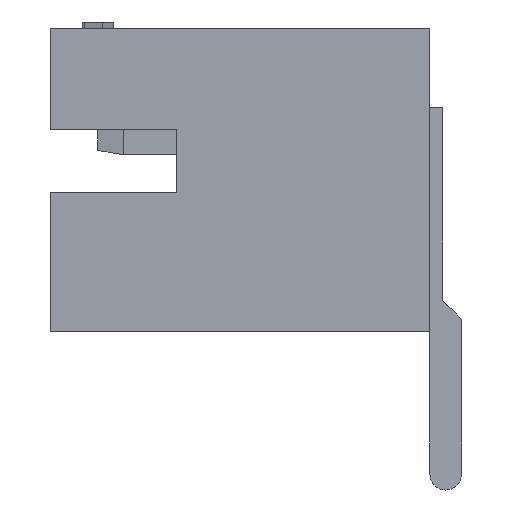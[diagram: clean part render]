
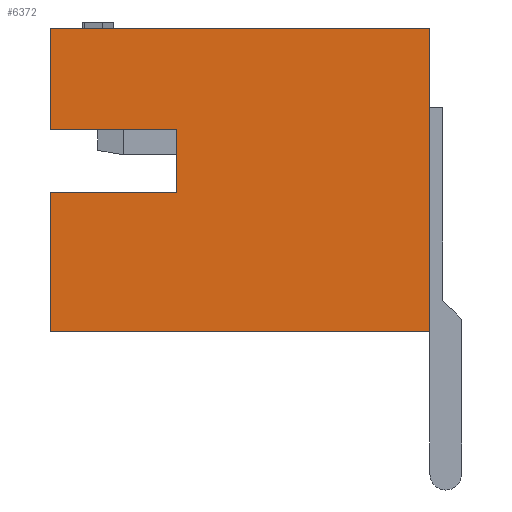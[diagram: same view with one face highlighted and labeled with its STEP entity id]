
A CAD part, left-side view. The second image highlights one B-rep face of the part: STEP entity #6372.
In plain terms, the highlighted planar face has unit normal (-1, 0, 0).
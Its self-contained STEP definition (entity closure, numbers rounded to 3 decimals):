
#1394=DIRECTION('',(0.,-1.,0.));
#1395=VECTOR('',#1394,2.);
#1396=CARTESIAN_POINT('',(0.,0.,-2.6));
#1397=LINE('',#1396,#1395);
#1398=DIRECTION('',(0.,0.,1.));
#1399=VECTOR('',#1398,1.);
#1400=CARTESIAN_POINT('',(0.,-2.,-2.6));
#1401=LINE('',#1400,#1399);
#1402=DIRECTION('',(0.,-1.,0.));
#1403=VECTOR('',#1402,2.);
#1404=CARTESIAN_POINT('',(0.,0.,-1.6));
#1405=LINE('',#1404,#1403);
#1406=DIRECTION('',(0.,0.,1.));
#1407=VECTOR('',#1406,1.6);
#1408=CARTESIAN_POINT('',(0.,0.,-1.6));
#1409=LINE('',#1408,#1407);
#1410=DIRECTION('',(0.,-1.,0.));
#1411=VECTOR('',#1410,6.);
#1412=CARTESIAN_POINT('',(0.,0.,0.));
#1413=LINE('',#1412,#1411);
#1414=DIRECTION('',(0.,0.,-1.));
#1415=VECTOR('',#1414,4.8);
#1416=CARTESIAN_POINT('',(0.,-6.,0.));
#1417=LINE('',#1416,#1415);
#1418=DIRECTION('',(0.,1.,0.));
#1419=VECTOR('',#1418,6.);
#1420=CARTESIAN_POINT('',(0.,-6.,-4.8));
#1421=LINE('',#1420,#1419);
#1422=DIRECTION('',(0.,0.,1.));
#1423=VECTOR('',#1422,2.2);
#1424=CARTESIAN_POINT('',(0.,0.,-4.8));
#1425=LINE('',#1424,#1423);
#3865=CARTESIAN_POINT('',(0.,0.,0.));
#3866=CARTESIAN_POINT('',(0.,-6.,0.));
#3867=VERTEX_POINT('',#3865);
#3868=VERTEX_POINT('',#3866);
#3869=CARTESIAN_POINT('',(0.,-6.,-4.8));
#3870=VERTEX_POINT('',#3869);
#3871=CARTESIAN_POINT('',(0.,0.,-4.8));
#3872=VERTEX_POINT('',#3871);
#4001=CARTESIAN_POINT('',(0.,0.,-2.6));
#4002=CARTESIAN_POINT('',(0.,-2.,-2.6));
#4003=VERTEX_POINT('',#4001);
#4004=VERTEX_POINT('',#4002);
#4005=CARTESIAN_POINT('',(0.,-2.,-1.6));
#4006=VERTEX_POINT('',#4005);
#4007=CARTESIAN_POINT('',(0.,0.,-1.6));
#4008=VERTEX_POINT('',#4007);
#6354=CARTESIAN_POINT('',(0.,0.,0.));
#6355=DIRECTION('',(1.,0.,0.));
#6356=DIRECTION('',(0.,-1.,0.));
#6357=AXIS2_PLACEMENT_3D('',#6354,#6355,#6356);
#6358=PLANE('',#6357);
#6359=ORIENTED_EDGE('',*,*,#6343,.T.);
#6361=ORIENTED_EDGE('',*,*,#6360,.T.);
#6363=ORIENTED_EDGE('',*,*,#6362,.F.);
#6364=ORIENTED_EDGE('',*,*,#5957,.T.);
#6365=ORIENTED_EDGE('',*,*,#5130,.T.);
#6366=ORIENTED_EDGE('',*,*,#5514,.T.);
#6368=ORIENTED_EDGE('',*,*,#6367,.T.);
#6369=ORIENTED_EDGE('',*,*,#5928,.T.);
#6370=EDGE_LOOP('',(#6359,#6361,#6363,#6364,#6365,#6366,#6368,#6369));
#6371=FACE_OUTER_BOUND('',#6370,.F.);
#6372=ADVANCED_FACE('',(#6371),#6358,.F.);
#5130=EDGE_CURVE('',#3867,#3868,#1413,.T.);
#5514=EDGE_CURVE('',#3868,#3870,#1417,.T.);
#5928=EDGE_CURVE('',#3872,#4003,#1425,.T.);
#5957=EDGE_CURVE('',#4008,#3867,#1409,.T.);
#6343=EDGE_CURVE('',#4003,#4004,#1397,.T.);
#6360=EDGE_CURVE('',#4004,#4006,#1401,.T.);
#6362=EDGE_CURVE('',#4008,#4006,#1405,.T.);
#6367=EDGE_CURVE('',#3870,#3872,#1421,.T.);
